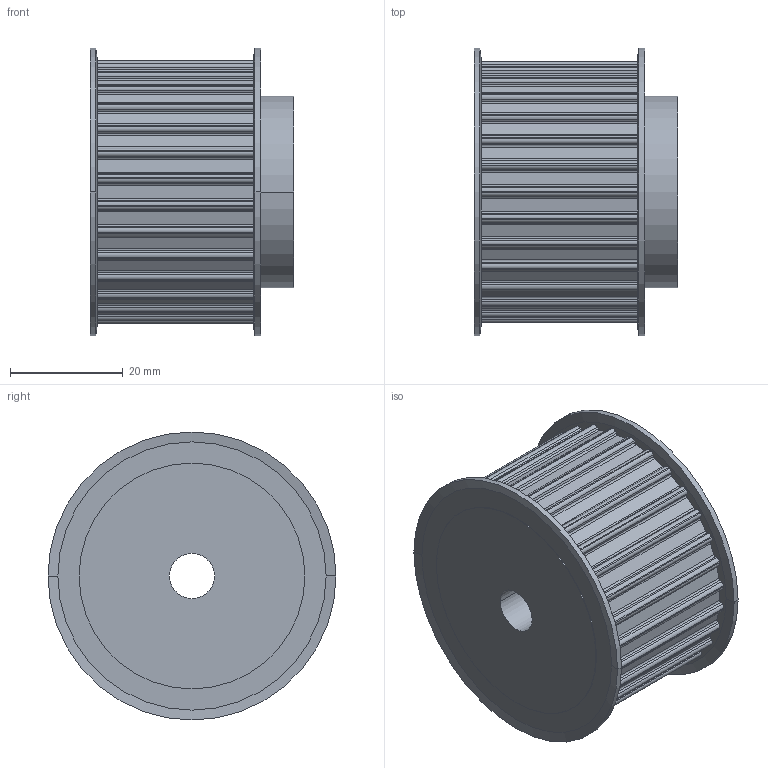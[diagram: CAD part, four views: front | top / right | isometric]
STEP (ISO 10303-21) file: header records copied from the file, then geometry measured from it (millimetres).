
FILE_DESCRIPTION( ( '' ), '1' );
FILE_NAME( 'C:/Users/Stangenbergd/Documents/CAD_Step/1/16643000.stp', '2021-10-19T09:38:16', ( '' ), ( '' ), ' ', ' ', ' ' );
FILE_SCHEMA( ( 'CONFIG_CONTROL_DESIGN' ) );
Length unit declared in the file: millimetre
Products named in the file (1): 1
Bounding box: 36.1 x 51 x 51 mm (x, y, z)
Volume: 52284.9 mm3; surface area: 11627.5 mm2
Topology: 1 solids, 1 shells, 267 faces, 772 edges, 512 vertices
Faces by surface type: cylinder 162, plane 97, cone 8
Entity records: 8962 total; most frequent: DIRECTION 1640, CARTESIAN_POINT 1552, ORIENTED_EDGE 1544, EDGE_CURVE 772, AXIS2_PLACEMENT_3D 600, VERTEX_POINT 512, LINE 440, VECTOR 440
